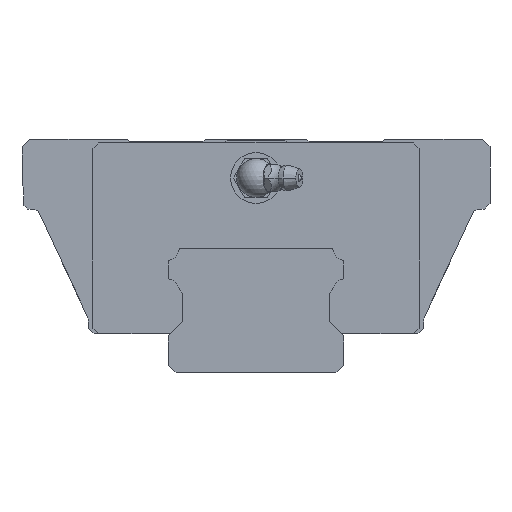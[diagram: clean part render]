
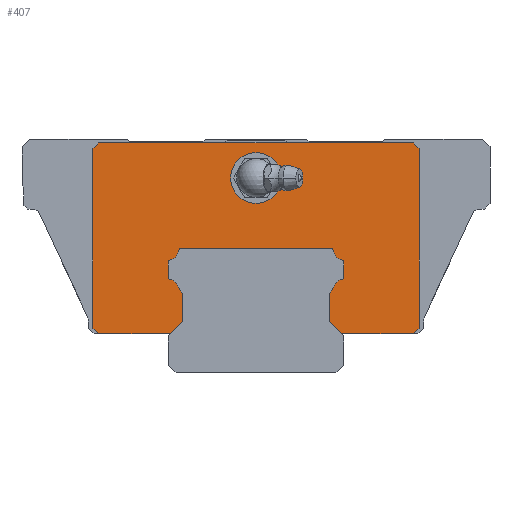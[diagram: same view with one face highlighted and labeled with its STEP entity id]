
A CAD part, front view. The second image highlights one B-rep face of the part: STEP entity #407.
In plain terms, the highlighted planar face has unit normal (0, -1, 0).
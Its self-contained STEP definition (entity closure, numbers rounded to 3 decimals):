
#407=ADVANCED_FACE('',(#937,#938),#939,.T.);
#937=FACE_BOUND('',#1545,.T.);
#938=FACE_OUTER_BOUND('',#1546,.T.);
#939=PLANE('',#1547);
#1545=EDGE_LOOP('',(#3563,#3564,#3565));
#1546=EDGE_LOOP('',(#3566,#3567,#3568,#3569,#3570,#3571,#3572,#3573,#3574,#3575,#3576,#3577,#3578,#3579,#3580,#3581,#3582,#3583,#3584,#3585,#3586,#3587,#3588,#3589,#3590,#3591,#3592,#3593));
#1547=AXIS2_PLACEMENT_3D('',#3594,#3595,#3596);
#3563=ORIENTED_EDGE('',*,*,#4494,.F.);
#3564=ORIENTED_EDGE('',*,*,#4493,.F.);
#3565=ORIENTED_EDGE('',*,*,#4048,.F.);
#3566=ORIENTED_EDGE('',*,*,#4250,.T.);
#3567=ORIENTED_EDGE('',*,*,#4377,.T.);
#3568=ORIENTED_EDGE('',*,*,#4348,.T.);
#3569=ORIENTED_EDGE('',*,*,#4305,.T.);
#3570=ORIENTED_EDGE('',*,*,#4461,.T.);
#3571=ORIENTED_EDGE('',*,*,#4490,.T.);
#3572=ORIENTED_EDGE('',*,*,#4504,.T.);
#3573=ORIENTED_EDGE('',*,*,#4505,.T.);
#3574=ORIENTED_EDGE('',*,*,#4221,.T.);
#3575=ORIENTED_EDGE('',*,*,#4323,.T.);
#3576=ORIENTED_EDGE('',*,*,#4447,.T.);
#3577=ORIENTED_EDGE('',*,*,#4506,.T.);
#3578=ORIENTED_EDGE('',*,*,#4507,.T.);
#3579=ORIENTED_EDGE('',*,*,#4508,.T.);
#3580=ORIENTED_EDGE('',*,*,#4475,.T.);
#3581=ORIENTED_EDGE('',*,*,#4423,.T.);
#3582=ORIENTED_EDGE('',*,*,#4509,.T.);
#3583=ORIENTED_EDGE('',*,*,#4226,.T.);
#3584=ORIENTED_EDGE('',*,*,#4498,.T.);
#3585=ORIENTED_EDGE('',*,*,#4470,.T.);
#3586=ORIENTED_EDGE('',*,*,#4415,.T.);
#3587=ORIENTED_EDGE('',*,*,#4510,.T.);
#3588=ORIENTED_EDGE('',*,*,#4511,.T.);
#3589=ORIENTED_EDGE('',*,*,#4512,.T.);
#3590=ORIENTED_EDGE('',*,*,#4497,.T.);
#3591=ORIENTED_EDGE('',*,*,#4301,.T.);
#3592=ORIENTED_EDGE('',*,*,#4296,.T.);
#3593=ORIENTED_EDGE('',*,*,#4298,.T.);
#3594=CARTESIAN_POINT('',(0.,-17.0,99.3));
#3595=DIRECTION('',(0.0,-1.0,0.0));
#3596=DIRECTION('',(0.0,0.0,-1.0));
#4048=EDGE_CURVE('',#4914,#4917,#4918,.T.);
#4221=EDGE_CURVE('',#5245,#5250,#5252,.T.);
#4226=EDGE_CURVE('',#5255,#5259,#5261,.T.);
#4250=EDGE_CURVE('',#5293,#5297,#5299,.T.);
#4296=EDGE_CURVE('',#5367,#5371,#5373,.T.);
#4298=EDGE_CURVE('',#5371,#5293,#5375,.T.);
#4301=EDGE_CURVE('',#5377,#5367,#5380,.T.);
#4305=EDGE_CURVE('',#5381,#5386,#5388,.T.);
#4323=EDGE_CURVE('',#5250,#5413,#5415,.T.);
#4348=EDGE_CURVE('',#5442,#5381,#5452,.T.);
#4377=EDGE_CURVE('',#5297,#5442,#5492,.T.);
#4415=EDGE_CURVE('',#5544,#5548,#5550,.T.);
#4423=EDGE_CURVE('',#5558,#5562,#5564,.T.);
#4447=EDGE_CURVE('',#5413,#5597,#5600,.T.);
#4461=EDGE_CURVE('',#5386,#5615,#5617,.T.);
#4470=EDGE_CURVE('',#5627,#5544,#5630,.T.);
#4475=EDGE_CURVE('',#5634,#5558,#5637,.T.);
#4490=EDGE_CURVE('',#5615,#5656,#5658,.T.);
#4493=EDGE_CURVE('',#4917,#5662,#5663,.T.);
#4494=EDGE_CURVE('',#5662,#4914,#5664,.T.);
#4497=EDGE_CURVE('',#5666,#5377,#5668,.T.);
#4498=EDGE_CURVE('',#5259,#5627,#5669,.T.);
#4504=EDGE_CURVE('',#5656,#5676,#5677,.T.);
#4505=EDGE_CURVE('',#5676,#5245,#5678,.T.);
#4506=EDGE_CURVE('',#5597,#5679,#5680,.T.);
#4507=EDGE_CURVE('',#5679,#5681,#5682,.T.);
#4508=EDGE_CURVE('',#5681,#5634,#5683,.T.);
#4509=EDGE_CURVE('',#5562,#5255,#5684,.T.);
#4510=EDGE_CURVE('',#5548,#5685,#5686,.T.);
#4511=EDGE_CURVE('',#5685,#5687,#5688,.T.);
#4512=EDGE_CURVE('',#5687,#5666,#5689,.T.);
#4914=VERTEX_POINT('',#6373);
#4917=VERTEX_POINT('',#6377);
#4918=CIRCLE('',#6378,6.5);
#5245=VERTEX_POINT('',#6824);
#5250=VERTEX_POINT('',#6831);
#5252=LINE('',#6834,#6835);
#5255=VERTEX_POINT('',#6838);
#5259=VERTEX_POINT('',#6843);
#5261=CIRCLE('',#6846,0.5);
#5293=VERTEX_POINT('',#6890);
#5297=VERTEX_POINT('',#6896);
#5299=LINE('',#6899,#6900);
#5367=VERTEX_POINT('',#7004);
#5371=VERTEX_POINT('',#7009);
#5373=CIRCLE('',#7012,3.2);
#5375=LINE('',#7015,#7016);
#5377=VERTEX_POINT('',#7018);
#5380=CIRCLE('',#7022,0.5);
#5381=VERTEX_POINT('',#7023);
#5386=VERTEX_POINT('',#7030);
#5388=LINE('',#7033,#7034);
#5413=VERTEX_POINT('',#7067);
#5415=LINE('',#7070,#7071);
#5442=VERTEX_POINT('',#7111);
#5452=LINE('',#7127,#7128);
#5492=LINE('',#7186,#7187);
#5544=VERTEX_POINT('',#7269);
#5548=VERTEX_POINT('',#7275);
#5550=LINE('',#7278,#7279);
#5558=VERTEX_POINT('',#7291);
#5562=VERTEX_POINT('',#7296);
#5564=CIRCLE('',#7299,0.5);
#5597=VERTEX_POINT('',#7352);
#5600=LINE('',#7356,#7357);
#5615=VERTEX_POINT('',#7379);
#5617=LINE('',#7382,#7383);
#5627=VERTEX_POINT('',#7396);
#5630=CIRCLE('',#7400,0.5);
#5634=VERTEX_POINT('',#7405);
#5637=CIRCLE('',#7409,3.2);
#5656=VERTEX_POINT('',#7437);
#5658=LINE('',#7440,#7441);
#5662=VERTEX_POINT('',#7445);
#5663=CIRCLE('',#7446,6.5);
#5664=CIRCLE('',#7447,6.5);
#5666=VERTEX_POINT('',#7449);
#5668=LINE('',#7452,#7453);
#5669=CIRCLE('',#7454,3.2);
#5676=VERTEX_POINT('',#7463);
#5677=LINE('',#7464,#7465);
#5678=LINE('',#7466,#7467);
#5679=VERTEX_POINT('',#7468);
#5680=LINE('',#7469,#7470);
#5681=VERTEX_POINT('',#7471);
#5682=LINE('',#7472,#7473);
#5683=LINE('',#7474,#7475);
#5684=LINE('',#7476,#7477);
#5685=VERTEX_POINT('',#7478);
#5686=CIRCLE('',#7479,0.5);
#5687=VERTEX_POINT('',#7480);
#5688=CIRCLE('',#7481,3.2);
#5689=CIRCLE('',#7482,0.5);
#6373=CARTESIAN_POINT('',(0.,-17.0,56.5));
#6377=CARTESIAN_POINT('',(0.,-17.0,43.5));
#6378=AXIS2_PLACEMENT_3D('',#7899,#7900,#7901);
#6824=CARTESIAN_POINT('',(-41.8,-17.0,57.5));
#6831=CARTESIAN_POINT('',(-41.8,-17.0,11.5));
#6834=CARTESIAN_POINT('',(-41.8,-17.0,57.5));
#6835=VECTOR('',#8207,1000.0);
#6838=CARTESIAN_POINT('',(-22.5,-17.0,28.486));
#6843=CARTESIAN_POINT('',(-22.113,-17.0,28.973));
#6846=AXIS2_PLACEMENT_3D('',#8216,#8217,#8218);
#6890=CARTESIAN_POINT('',(18.75,-17.0,20.45));
#6896=CARTESIAN_POINT('',(18.75,-17.0,13.25));
#6899=CARTESIAN_POINT('',(18.75,-17.0,99.3));
#6900=VECTOR('',#8258,1000.0);
#7004=CARTESIAN_POINT('',(22.113,-17.0,24.027));
#7009=CARTESIAN_POINT('',(19.674,-17.0,21.374));
#7012=AXIS2_PLACEMENT_3D('',#8327,#8328,#8329);
#7015=CARTESIAN_POINT('',(48.8,-17.0,50.5));
#7016=VECTOR('',#8331,1000.0);
#7018=CARTESIAN_POINT('',(22.5,-17.0,24.514));
#7022=AXIS2_PLACEMENT_3D('',#8336,#8337,#8338);
#7023=CARTESIAN_POINT('',(40.3,-17.0,10.0));
#7030=CARTESIAN_POINT('',(41.8,-17.0,11.5));
#7033=CARTESIAN_POINT('',(40.3,-17.0,10.0));
#7034=VECTOR('',#8342,1000.0);
#7067=CARTESIAN_POINT('',(-40.3,-17.0,10.0));
#7070=CARTESIAN_POINT('',(-41.8,-17.0,11.5));
#7071=VECTOR('',#8376,1000.0);
#7111=CARTESIAN_POINT('',(22.0,-17.0,10.0));
#7127=CARTESIAN_POINT('',(-40.3,-17.0,10.0));
#7128=VECTOR('',#8420,1000.0);
#7186=CARTESIAN_POINT('',(-33.65,-17.0,65.65));
#7187=VECTOR('',#8469,1000.0);
#7269=CARTESIAN_POINT('',(-19.187,-17.0,32.0));
#7275=CARTESIAN_POINT('',(19.187,-17.0,32.0));
#7278=CARTESIAN_POINT('',(0.,-17.0,32.0));
#7279=VECTOR('',#8529,1000.0);
#7291=CARTESIAN_POINT('',(-22.113,-17.0,24.027));
#7296=CARTESIAN_POINT('',(-22.5,-17.0,24.514));
#7299=AXIS2_PLACEMENT_3D('',#8539,#8540,#8541);
#7352=CARTESIAN_POINT('',(-22.0,-17.0,10.0));
#7356=CARTESIAN_POINT('',(-40.3,-17.0,10.0));
#7357=VECTOR('',#8569,1000.0);
#7379=CARTESIAN_POINT('',(41.8,-17.0,57.5));
#7382=CARTESIAN_POINT('',(41.8,-17.0,11.5));
#7383=VECTOR('',#8593,1000.0);
#7396=CARTESIAN_POINT('',(-19.681,-17.0,31.58));
#7400=AXIS2_PLACEMENT_3D('',#8610,#8611,#8612);
#7405=CARTESIAN_POINT('',(-19.674,-17.0,21.374));
#7409=AXIS2_PLACEMENT_3D('',#8621,#8622,#8623);
#7437=CARTESIAN_POINT('',(40.3,-17.0,59.0));
#7440=CARTESIAN_POINT('',(41.8,-17.0,57.5));
#7441=VECTOR('',#8646,1000.0);
#7445=CARTESIAN_POINT('',(6.5,-17.0,50.0));
#7446=AXIS2_PLACEMENT_3D('',#8653,#8654,#8655);
#7447=AXIS2_PLACEMENT_3D('',#8656,#8657,#8658);
#7449=CARTESIAN_POINT('',(22.5,-17.0,28.486));
#7452=CARTESIAN_POINT('',(22.5,-17.0,99.3));
#7453=VECTOR('',#8663,1000.0);
#7454=AXIS2_PLACEMENT_3D('',#8664,#8665,#8666);
#7463=CARTESIAN_POINT('',(-40.3,-17.0,59.0));
#7464=CARTESIAN_POINT('',(40.3,-17.0,59.0));
#7465=VECTOR('',#8678,1000.0);
#7466=CARTESIAN_POINT('',(-40.3,-17.0,59.0));
#7467=VECTOR('',#8679,1000.0);
#7468=CARTESIAN_POINT('',(-18.75,-17.0,13.25));
#7469=CARTESIAN_POINT('',(33.65,-17.0,65.65));
#7470=VECTOR('',#8680,1000.0);
#7471=CARTESIAN_POINT('',(-18.75,-17.0,20.45));
#7472=CARTESIAN_POINT('',(-18.75,-17.0,99.3));
#7473=VECTOR('',#8681,1000.0);
#7474=CARTESIAN_POINT('',(-48.8,-17.0,50.5));
#7475=VECTOR('',#8682,1000.0);
#7476=CARTESIAN_POINT('',(-22.5,-17.0,99.3));
#7477=VECTOR('',#8683,1000.0);
#7478=CARTESIAN_POINT('',(19.681,-17.0,31.58));
#7479=AXIS2_PLACEMENT_3D('',#8684,#8685,#8686);
#7480=CARTESIAN_POINT('',(22.113,-17.0,28.973));
#7481=AXIS2_PLACEMENT_3D('',#8687,#8688,#8689);
#7482=AXIS2_PLACEMENT_3D('',#8690,#8691,#8692);
#7899=CARTESIAN_POINT('',(0.,-17.0,50.0));
#7900=DIRECTION('',(0.0,-1.0,0.0));
#7901=DIRECTION('',(1.0,0.0,0.0));
#8207=DIRECTION('',(0.0,0.0,-1.0));
#8216=CARTESIAN_POINT('',(-22.0,-17.0,28.486));
#8217=DIRECTION('',(0.0,1.0,0.0));
#8218=DIRECTION('',(0.0,0.0,-1.0));
#8258=DIRECTION('',(0.0,0.0,-1.0));
#8327=CARTESIAN_POINT('',(22.84,-17.0,20.91));
#8328=DIRECTION('',(0.0,-1.0,0.0));
#8329=DIRECTION('',(0.0,0.0,-1.0));
#8331=DIRECTION('',(-0.707,0.0,-0.707));
#8336=CARTESIAN_POINT('',(22.0,-17.0,24.514));
#8337=DIRECTION('',(0.0,1.0,0.0));
#8338=DIRECTION('',(0.0,0.0,-1.0));
#8342=DIRECTION('',(0.707,0.0,0.707));
#8376=DIRECTION('',(0.707,0.0,-0.707));
#8420=DIRECTION('',(1.0,0.0,0.0));
#8469=DIRECTION('',(0.707,0.0,-0.707));
#8529=DIRECTION('',(1.0,0.0,0.0));
#8539=CARTESIAN_POINT('',(-22.0,-17.0,24.514));
#8540=DIRECTION('',(0.0,1.0,0.0));
#8541=DIRECTION('',(0.0,0.0,-1.0));
#8569=DIRECTION('',(1.0,0.0,0.0));
#8593=DIRECTION('',(0.0,0.0,1.0));
#8610=CARTESIAN_POINT('',(-19.187,-17.0,31.5));
#8611=DIRECTION('',(0.0,1.0,0.0));
#8612=DIRECTION('',(0.0,0.0,-1.0));
#8621=CARTESIAN_POINT('',(-22.84,-17.0,20.91));
#8622=DIRECTION('',(0.0,-1.0,0.0));
#8623=DIRECTION('',(0.0,0.0,-1.0));
#8646=DIRECTION('',(-0.707,0.0,0.707));
#8653=CARTESIAN_POINT('',(0.,-17.0,50.0));
#8654=DIRECTION('',(0.0,-1.0,0.0));
#8655=DIRECTION('',(1.0,0.0,0.0));
#8656=CARTESIAN_POINT('',(0.,-17.0,50.0));
#8657=DIRECTION('',(0.0,-1.0,0.0));
#8658=DIRECTION('',(1.0,0.0,0.0));
#8663=DIRECTION('',(0.0,0.0,-1.0));
#8664=CARTESIAN_POINT('',(-22.84,-17.0,32.09));
#8665=DIRECTION('',(0.0,-1.0,0.0));
#8666=DIRECTION('',(0.0,0.0,-1.0));
#8678=DIRECTION('',(-1.0,0.0,0.));
#8679=DIRECTION('',(-0.707,0.0,-0.707));
#8680=DIRECTION('',(0.707,0.0,0.707));
#8681=DIRECTION('',(0.0,0.0,1.0));
#8682=DIRECTION('',(-0.707,0.0,0.707));
#8683=DIRECTION('',(0.0,0.0,1.0));
#8684=CARTESIAN_POINT('',(19.187,-17.0,31.5));
#8685=DIRECTION('',(0.0,1.0,0.0));
#8686=DIRECTION('',(0.0,0.0,-1.0));
#8687=CARTESIAN_POINT('',(22.84,-17.0,32.09));
#8688=DIRECTION('',(0.0,-1.0,0.0));
#8689=DIRECTION('',(0.0,0.0,-1.0));
#8690=CARTESIAN_POINT('',(22.0,-17.0,28.486));
#8691=DIRECTION('',(0.0,1.0,0.0));
#8692=DIRECTION('',(0.0,0.0,-1.0));
